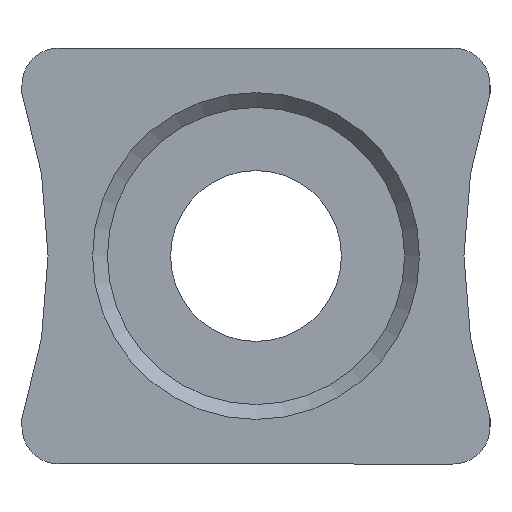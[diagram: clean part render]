
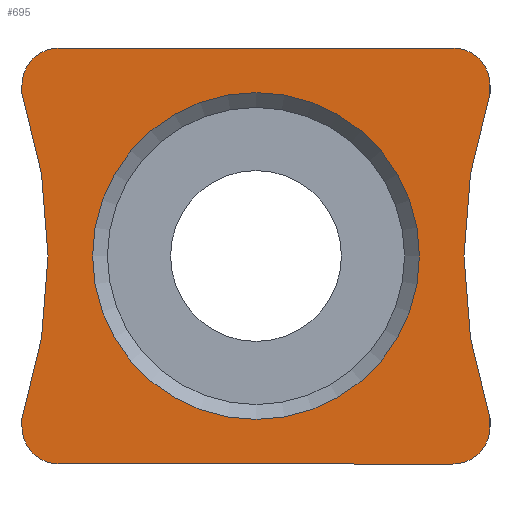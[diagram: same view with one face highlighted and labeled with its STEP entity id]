
A CAD part, left-side view. The second image highlights one B-rep face of the part: STEP entity #695.
In plain terms, the highlighted planar face has unit normal (-1, 0, 0).
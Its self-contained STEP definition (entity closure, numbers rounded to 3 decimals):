
#10 = CARTESIAN_POINT ( 'NONE',  ( 0., 2.65, 2.3 ) ) ;
#11 = CARTESIAN_POINT ( 'NONE',  ( 0., 3.15, 2.186 ) ) ;
#18 = DIRECTION ( 'NONE',  ( -1., 0., 0. ) ) ;
#42 = CARTESIAN_POINT ( 'NONE',  ( 0., 3.15, 2.8 ) ) ;
#58 = ORIENTED_EDGE ( 'NONE', *, *, #443, .T. ) ;
#59 = VERTEX_POINT ( 'NONE', #1082 ) ;
#61 = EDGE_CURVE ( 'NONE', #414, #59, #639, .T. ) ;
#76 = DIRECTION ( 'NONE',  ( 0., 0., 1. ) ) ;
#104 = AXIS2_PLACEMENT_3D ( 'NONE', #10, #18, #209 ) ;
#129 = DIRECTION ( 'NONE',  ( 0., 0., -1. ) ) ;
#142 = LINE ( 'NONE', #765, #170 ) ;
#143 = DIRECTION ( 'NONE',  ( 0., -1., 0. ) ) ;
#145 = VERTEX_POINT ( 'NONE', #601 ) ;
#150 = DIRECTION ( 'NONE',  ( 0., 0., -1. ) ) ;
#170 = VECTOR ( 'NONE', #150, 1000. ) ;
#172 = EDGE_CURVE ( 'NONE', #310, #600, #780, .T. ) ;
#187 = ORIENTED_EDGE ( 'NONE', *, *, #734, .F. ) ;
#194 = CARTESIAN_POINT ( 'NONE',  ( 0., -3.15, 2.186 ) ) ;
#197 = LINE ( 'NONE', #742, #508 ) ;
#205 = CIRCLE ( 'NONE', #104, 0.5 ) ;
#209 = DIRECTION ( 'NONE',  ( 0., 0., -1. ) ) ;
#217 = EDGE_CURVE ( 'NONE', #456, #600, #384, .T. ) ;
#250 = CARTESIAN_POINT ( 'NONE',  ( 0., -3.15, 2.8 ) ) ;
#258 = VERTEX_POINT ( 'NONE', #1087 ) ;
#259 = VECTOR ( 'NONE', #1033, 1000. ) ;
#266 = DIRECTION ( 'NONE',  ( 0., 0., 1. ) ) ;
#310 = VERTEX_POINT ( 'NONE', #773 ) ;
#315 = AXIS2_PLACEMENT_3D ( 'NONE', #626, #620, #947 ) ;
#324 = ORIENTED_EDGE ( 'NONE', *, *, #422, .F. ) ;
#325 = DIRECTION ( 'NONE',  ( 0., 0., -1. ) ) ;
#330 = LINE ( 'NONE', #42, #714 ) ;
#331 = CARTESIAN_POINT ( 'NONE',  ( 0., -2.65, 2.3 ) ) ;
#333 = CARTESIAN_POINT ( 'NONE',  ( 0., 2.65, -2.8 ) ) ;
#346 = CIRCLE ( 'NONE', #1037, 7. ) ;
#356 = CARTESIAN_POINT ( 'NONE',  ( 0., 3.15, -2.186 ) ) ;
#361 = LINE ( 'NONE', #873, #694 ) ;
#362 = CARTESIAN_POINT ( 'NONE',  ( 0., 0., -2.2 ) ) ;
#384 = CIRCLE ( 'NONE', #632, 0.5 ) ;
#389 = CARTESIAN_POINT ( 'NONE',  ( 0., -9.8, 0. ) ) ;
#414 = VERTEX_POINT ( 'NONE', #930 ) ;
#422 = EDGE_CURVE ( 'NONE', #829, #1001, #711, .T. ) ;
#429 = VERTEX_POINT ( 'NONE', #432 ) ;
#432 = CARTESIAN_POINT ( 'NONE',  ( 0., 2.65, 2.8 ) ) ;
#437 = AXIS2_PLACEMENT_3D ( 'NONE', #539, #582, #574 ) ;
#443 = EDGE_CURVE ( 'NONE', #145, #886, #917, .T. ) ;
#445 = DIRECTION ( 'NONE',  ( -1., 0., 0. ) ) ;
#451 = AXIS2_PLACEMENT_3D ( 'NONE', #903, #445, #656 ) ;
#456 = VERTEX_POINT ( 'NONE', #525 ) ;
#463 = ORIENTED_EDGE ( 'NONE', *, *, #61, .T. ) ;
#481 = CARTESIAN_POINT ( 'NONE',  ( 0., 0., 0. ) ) ;
#508 = VECTOR ( 'NONE', #652, 1000. ) ;
#525 = CARTESIAN_POINT ( 'NONE',  ( 0., -2.65, -2.8 ) ) ;
#539 = CARTESIAN_POINT ( 'NONE',  ( 0., 9.8, 0. ) ) ;
#549 = EDGE_CURVE ( 'NONE', #429, #258, #205, .T. ) ;
#571 = PLANE ( 'NONE',  #817 ) ;
#574 = DIRECTION ( 'NONE',  ( 0., 0., 1. ) ) ;
#582 = DIRECTION ( 'NONE',  ( -1., 0., 0. ) ) ;
#583 = ORIENTED_EDGE ( 'NONE', *, *, #1077, .T. ) ;
#598 = ORIENTED_EDGE ( 'NONE', *, *, #549, .T. ) ;
#600 = VERTEX_POINT ( 'NONE', #646 ) ;
#601 = CARTESIAN_POINT ( 'NONE',  ( 0., 3.15, -2.3 ) ) ;
#619 = AXIS2_PLACEMENT_3D ( 'NONE', #331, #688, #325 ) ;
#620 = DIRECTION ( 'NONE',  ( 1., 0., 0. ) ) ;
#626 = CARTESIAN_POINT ( 'NONE',  ( 0., 0., 0. ) ) ;
#632 = AXIS2_PLACEMENT_3D ( 'NONE', #700, #802, #837 ) ;
#639 = CIRCLE ( 'NONE', #619, 0.5 ) ;
#642 = DIRECTION ( 'NONE',  ( 0., 0., 1. ) ) ;
#646 = CARTESIAN_POINT ( 'NONE',  ( 0., -3.15, -2.3 ) ) ;
#652 = DIRECTION ( 'NONE',  ( 0., 1., 0. ) ) ;
#656 = DIRECTION ( 'NONE',  ( 0., 0., -1. ) ) ;
#671 = FACE_OUTER_BOUND ( 'NONE', #1045, .T. ) ;
#682 = ORIENTED_EDGE ( 'NONE', *, *, #172, .F. ) ;
#684 = ORIENTED_EDGE ( 'NONE', *, *, #217, .T. ) ;
#686 = VECTOR ( 'NONE', #642, 1000. ) ;
#688 = DIRECTION ( 'NONE',  ( -1., 0., 0. ) ) ;
#694 = VECTOR ( 'NONE', #76, 1000. ) ;
#695 = ADVANCED_FACE ( 'NONE', ( #988, #671 ), #571, .F. ) ;
#700 = CARTESIAN_POINT ( 'NONE',  ( 0., -2.65, -2.3 ) ) ;
#711 = CIRCLE ( 'NONE', #437, 7. ) ;
#714 = VECTOR ( 'NONE', #143, 1000. ) ;
#716 = CARTESIAN_POINT ( 'NONE',  ( 0., 3.15, 2.8 ) ) ;
#734 = EDGE_CURVE ( 'NONE', #456, #886, #197, .T. ) ;
#742 = CARTESIAN_POINT ( 'NONE',  ( 0., 3.15, -2.8 ) ) ;
#751 = DIRECTION ( 'NONE',  ( 1., 0., 0. ) ) ;
#765 = CARTESIAN_POINT ( 'NONE',  ( 0., -3.15, 2.8 ) ) ;
#773 = CARTESIAN_POINT ( 'NONE',  ( 0., -3.15, -2.186 ) ) ;
#779 = VERTEX_POINT ( 'NONE', #194 ) ;
#780 = LINE ( 'NONE', #250, #259 ) ;
#794 = ORIENTED_EDGE ( 'NONE', *, *, #1039, .F. ) ;
#802 = DIRECTION ( 'NONE',  ( -1., 0., 0. ) ) ;
#815 = EDGE_CURVE ( 'NONE', #779, #310, #346, .T. ) ;
#817 = AXIS2_PLACEMENT_3D ( 'NONE', #481, #751, #129 ) ;
#829 = VERTEX_POINT ( 'NONE', #356 ) ;
#837 = DIRECTION ( 'NONE',  ( 0., 0., -1. ) ) ;
#839 = EDGE_CURVE ( 'NONE', #145, #829, #1073, .T. ) ;
#853 = EDGE_LOOP ( 'NONE', ( #583 ) ) ;
#872 = CIRCLE ( 'NONE', #315, 2.2 ) ;
#873 = CARTESIAN_POINT ( 'NONE',  ( 0., 3.15, 2.8 ) ) ;
#875 = ORIENTED_EDGE ( 'NONE', *, *, #876, .F. ) ;
#876 = EDGE_CURVE ( 'NONE', #1001, #258, #361, .T. ) ;
#886 = VERTEX_POINT ( 'NONE', #333 ) ;
#895 = ORIENTED_EDGE ( 'NONE', *, *, #815, .F. ) ;
#903 = CARTESIAN_POINT ( 'NONE',  ( 0., 2.65, -2.3 ) ) ;
#917 = CIRCLE ( 'NONE', #451, 0.5 ) ;
#930 = CARTESIAN_POINT ( 'NONE',  ( 0., -3.15, 2.3 ) ) ;
#935 = ORIENTED_EDGE ( 'NONE', *, *, #1005, .F. ) ;
#940 = VERTEX_POINT ( 'NONE', #362 ) ;
#947 = DIRECTION ( 'NONE',  ( 0., 0., -1. ) ) ;
#988 = FACE_BOUND ( 'NONE', #853, .T. ) ;
#1001 = VERTEX_POINT ( 'NONE', #11 ) ;
#1005 = EDGE_CURVE ( 'NONE', #414, #779, #142, .T. ) ;
#1033 = DIRECTION ( 'NONE',  ( 0., 0., -1. ) ) ;
#1037 = AXIS2_PLACEMENT_3D ( 'NONE', #389, #1056, #266 ) ;
#1039 = EDGE_CURVE ( 'NONE', #429, #59, #330, .T. ) ;
#1045 = EDGE_LOOP ( 'NONE', ( #935, #463, #794, #598, #875, #324, #1098, #58, #187, #684, #682, #895 ) ) ;
#1056 = DIRECTION ( 'NONE',  ( -1., 0., 0. ) ) ;
#1073 = LINE ( 'NONE', #716, #686 ) ;
#1077 = EDGE_CURVE ( 'NONE', #940, #940, #872, .T. ) ;
#1082 = CARTESIAN_POINT ( 'NONE',  ( 0., -2.65, 2.8 ) ) ;
#1087 = CARTESIAN_POINT ( 'NONE',  ( 0., 3.15, 2.3 ) ) ;
#1098 = ORIENTED_EDGE ( 'NONE', *, *, #839, .F. ) ;
